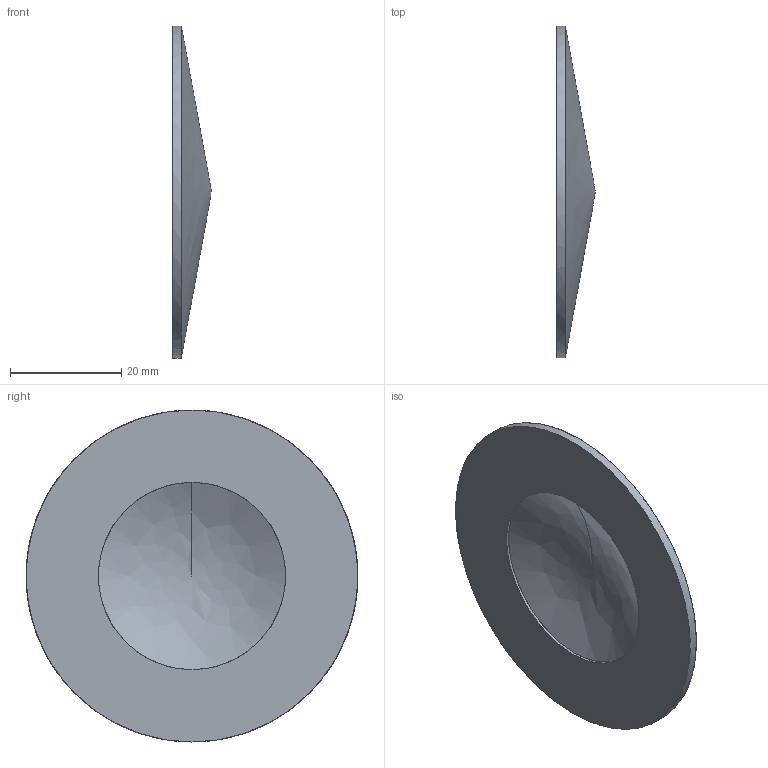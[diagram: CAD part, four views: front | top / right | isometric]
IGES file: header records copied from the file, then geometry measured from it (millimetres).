
Start section: C
Global section: file name: 0051-60.igs; native system: By Siemens PLM Incorporated; preprocessor: XPlus GENERIC/IGES 16.0.42; author: Author; organization: Title; date: 20260104.161151; units: millimetre
Bounding box: 7 x 59.55 x 59.6 mm (x, y, z)
Surface area: 6049.1 mm2 (no closed solid volume)
Topology: 0 solids, 0 shells, 5 faces, 26 edges, 24 vertices
Faces by surface type: bspline 5
